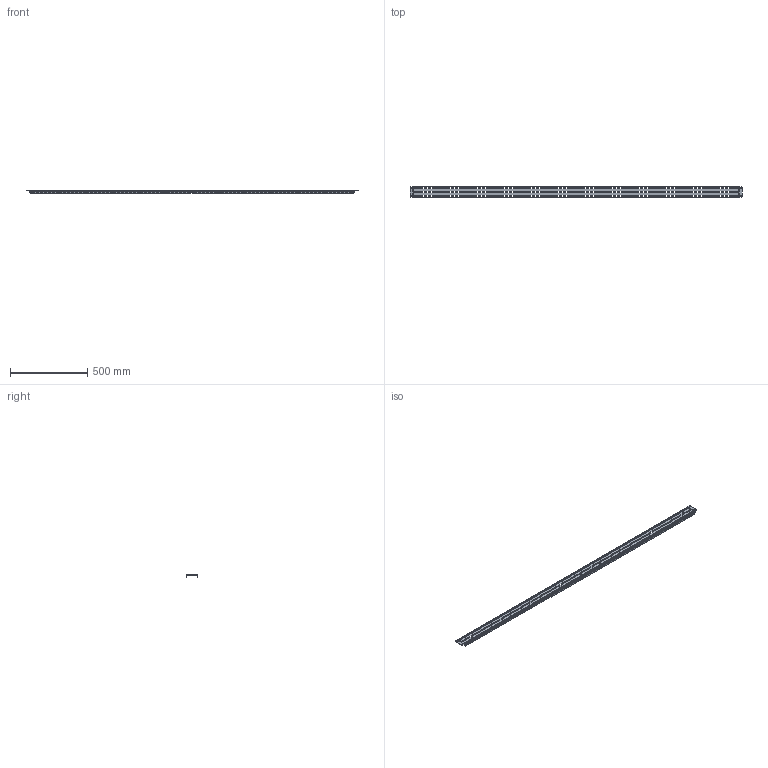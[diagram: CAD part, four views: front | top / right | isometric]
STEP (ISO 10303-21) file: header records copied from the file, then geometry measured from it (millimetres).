
FILE_DESCRIPTION (( 'STEP AP203' ), '1' );
FILE_NAME ('MRD 220.09 Ðåéêà ìîíòàæíàÿ âåðòèêàëüíàÿ.STEP', '2025-05-15T12:36:07', ( '' ), ( '' ), 'SwSTEP 2.0', 'SolidWorks 2019', '' );
FILE_SCHEMA (( 'CONFIG_CONTROL_DESIGN' ));
Products named in the file (1): MRD 220.09 Ðåéêà ìîíòàæíàÿ âåðòèêàëüíàÿ
Bounding box: 2152 x 74 x 19.03 mm (x, y, z)
Volume: 356492.1 mm3; surface area: 409023.5 mm2
Topology: 1 solids, 1 shells, 3952 faces, 11802 edges, 7852 vertices
Faces by surface type: plane 3070, cylinder 882
Entity records: 135179 total; most frequent: CARTESIAN_POINT 23607, ORIENTED_EDGE 23604, DIRECTION 21472, EDGE_CURVE 11802, LINE 10038, VECTOR 10038, VERTEX_POINT 7852, AXIS2_PLACEMENT_3D 5717
